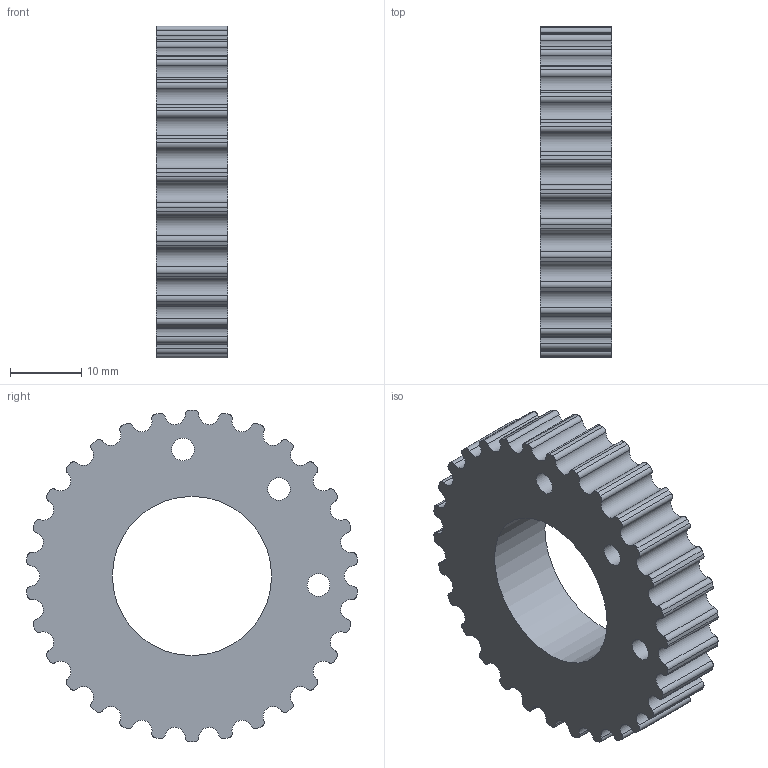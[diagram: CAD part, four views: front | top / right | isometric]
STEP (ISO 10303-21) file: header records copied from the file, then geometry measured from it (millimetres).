
FILE_DESCRIPTION(/* description */ (''),/* implementation_level */ '2;1');
FILE_NAME(/* name */ 'GPA30MR5150_KNEE v1.step',/* time_stamp */ '2025-10-21T12:08:43-07:00',/* author */ (''),/* organization */ (''),/* preprocessor_version */ 'ST-DEVELOPER v20.1',/* originating_system */ 'Autodesk Translation Framework v14.17.0.0',/* authorisation */ '');
FILE_SCHEMA (('AUTOMOTIVE_DESIGN { 1 0 10303 214 3 1 1 }'));
Length unit declared in the file: inch
Products named in the file (1): GPA30MR5150_KNEE
Bounding box: 10 x 46.42 x 46.61 mm (x, y, z)
Volume: 11455 mm3; surface area: 5329.1 mm2
Topology: 1 solids, 1 shells, 126 faces, 372 edges, 248 vertices
Faces by surface type: cylinder 124, plane 2
Full cylindrical faces by diameter (mm): 3.175 x3, 22.352 x1
Entity records: 4542 total; most frequent: DIRECTION 874, CARTESIAN_POINT 747, ORIENTED_EDGE 744, AXIS2_PLACEMENT_3D 375, EDGE_CURVE 372, CIRCLE 248, VERTEX_POINT 248, EDGE_LOOP 134
